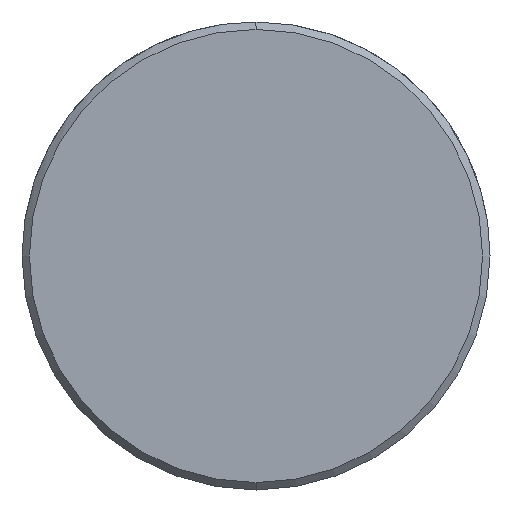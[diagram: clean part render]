
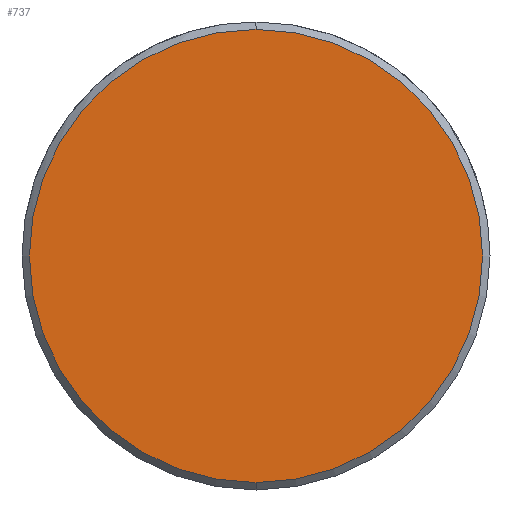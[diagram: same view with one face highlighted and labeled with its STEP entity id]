
A CAD part, left-side view. The second image highlights one B-rep face of the part: STEP entity #737.
In plain terms, the highlighted planar face has unit normal (-1, 0, 0).
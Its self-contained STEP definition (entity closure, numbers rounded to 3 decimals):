
#669=CARTESIAN_POINT('Vertex',(0.,0.,-9.2)) ;
#672=CARTESIAN_POINT('Axis2P3D Location',(0.,0.,0.)) ;
#676=CARTESIAN_POINT('Vertex',(0.,9.2,0.)) ;
#679=CARTESIAN_POINT('Axis2P3D Location',(0.,0.,0.)) ;
#683=CARTESIAN_POINT('Vertex',(0.,0.,9.2)) ;
#705=CARTESIAN_POINT('Axis2P3D Location',(0.,0.,0.)) ;
#709=CARTESIAN_POINT('Vertex',(0.,-9.2,0.)) ;
#712=CARTESIAN_POINT('Axis2P3D Location',(0.,0.,0.)) ;
#726=CARTESIAN_POINT('Axis2P3D Location',(0.,0.,0.)) ;
#673=DIRECTION('Axis2P3D Direction',(1.,0.,-0.)) ;
#680=DIRECTION('Axis2P3D Direction',(1.,0.,-0.)) ;
#706=DIRECTION('Axis2P3D Direction',(1.,0.,-0.)) ;
#713=DIRECTION('Axis2P3D Direction',(1.,0.,-0.)) ;
#727=DIRECTION('Axis2P3D Direction',(1.,0.,-0.)) ;
#728=DIRECTION('Axis2P3D XDirection',(-0.,0.,-1.)) ;
#674=AXIS2_PLACEMENT_3D('Circle Axis2P3D',#672,#673,$) ;
#681=AXIS2_PLACEMENT_3D('Circle Axis2P3D',#679,#680,$) ;
#707=AXIS2_PLACEMENT_3D('Circle Axis2P3D',#705,#706,$) ;
#714=AXIS2_PLACEMENT_3D('Circle Axis2P3D',#712,#713,$) ;
#729=AXIS2_PLACEMENT_3D('Plane Axis2P3D',#726,#727,#728) ;
#732=ORIENTED_EDGE('',*,*,#678,.F.) ;
#733=ORIENTED_EDGE('',*,*,#716,.F.) ;
#734=ORIENTED_EDGE('',*,*,#711,.F.) ;
#735=ORIENTED_EDGE('',*,*,#685,.F.) ;
#737=ADVANCED_FACE('549-16X140',(#736),#730,.F.) ;
#675=CIRCLE('generated circle',#674,9.2) ;
#682=CIRCLE('generated circle',#681,9.2) ;
#708=CIRCLE('generated circle',#707,9.2) ;
#715=CIRCLE('generated circle',#714,9.2) ;
#678=EDGE_CURVE('',#670,#677,#675,.T.) ;
#685=EDGE_CURVE('',#677,#684,#682,.T.) ;
#711=EDGE_CURVE('',#684,#710,#708,.T.) ;
#716=EDGE_CURVE('',#710,#670,#715,.T.) ;
#731=EDGE_LOOP('',(#732,#733,#734,#735)) ;
#736=FACE_OUTER_BOUND('',#731,.T.) ;
#730=PLANE('Plane',#729) ;
#670=VERTEX_POINT('',#669) ;
#677=VERTEX_POINT('',#676) ;
#684=VERTEX_POINT('',#683) ;
#710=VERTEX_POINT('',#709) ;
